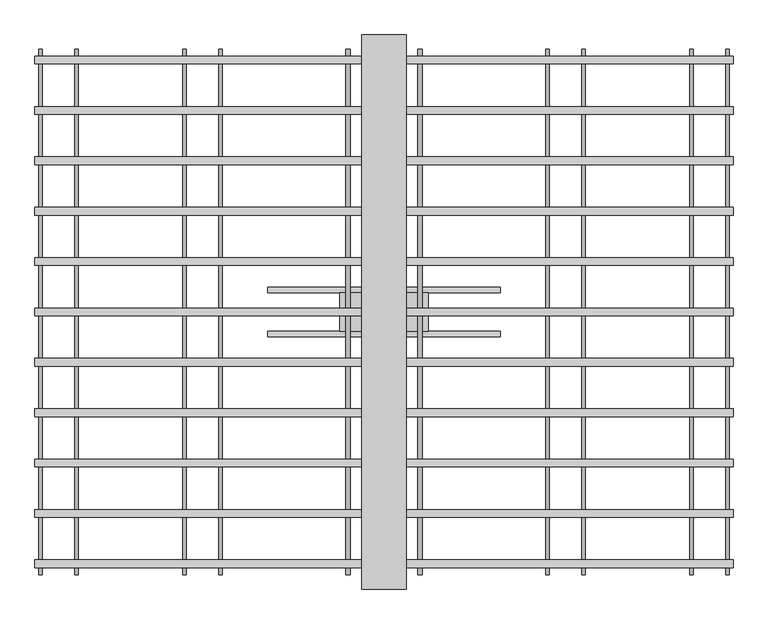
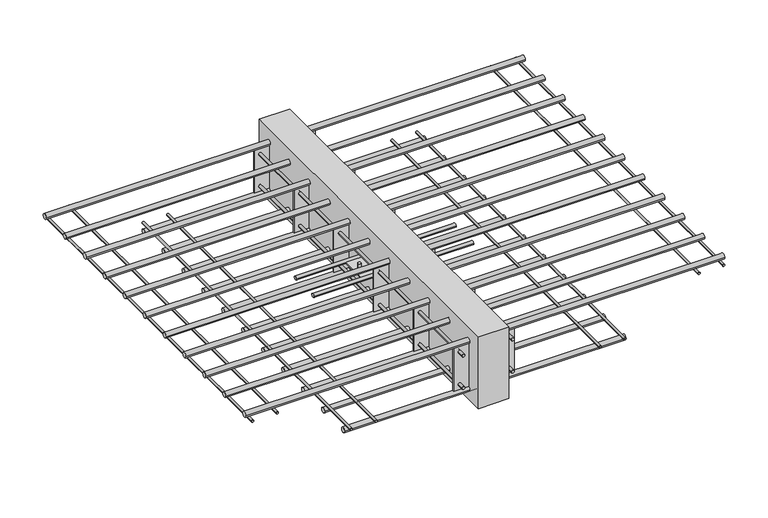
"""IFC4 building model written with IfcOpenShell, lengths in millimetres: proxy geometry, ACINOXplus_Typenreihe_K : KH+ S1."""

from ifc_helpers import new_model, si_unit, point, frame, frame_2d, origin, place, context, project, spatial, polyline, circle_curve, trimmed, segment, composite_curve, outline, extrude, source, transform, mapped, element, save
from ifc_brep_helpers import plane_surface, cylinder_surface, advanced_brep


def generic_models_bff30d25(model_context):
    return source(origin(), model_context, "Body", "SolidModel", [
        extrude(outline(polyline([(40.0, 500.0), (40.0, -500.0), (-40.0, -500.0), (-40.0, 500.0), (40.0, 500.0)])), frame((0.0, 0.0, -200.0), z_axis=(0.0, 0.0, 1.0), x_axis=(1.0, 0.0, 0.0)), (0.0, 0.0, 1.0), 200.0),
        extrude(outline(composite_curve([segment(trimmed(circle_curve(frame_2d((-40.0, -104.0)), 5.0), [point((-45.0, -104.0))], [point((-35.0, -104.0))], False, "CARTESIAN"), True, "CONTINUOUS"), segment(trimmed(circle_curve(frame_2d((-40.0, -104.0)), 5.0), [point((-35.0, -104.0))], [point((-45.0, -104.0))], False, "CARTESIAN"), True, "CONTINUOUS")], self_intersect=False)), frame((-210.0, 0.0, 0.0), z_axis=(1.0, 0.0, 0.0), x_axis=(0.0, 1.0, 0.0)), (0.0, 0.0, 1.0), 420.0),
        extrude(outline(composite_curve([segment(trimmed(circle_curve(frame_2d((40.0, -104.0)), 5.0), [point((35.0, -104.0))], [point((45.0, -104.0))], False, "CARTESIAN"), True, "CONTINUOUS"), segment(trimmed(circle_curve(frame_2d((40.0, -104.0)), 5.0), [point((45.0, -104.0))], [point((35.0, -104.0))], False, "CARTESIAN"), True, "CONTINUOUS")], self_intersect=False)), frame((-210.0, 0.0, 0.0), z_axis=(1.0, 0.0, 0.0), x_axis=(0.0, 1.0, 0.0)), (0.0, 0.0, 1.0), 420.0),
        advanced_brep(
        [(-69.0, 0.0, -89.0), (-61.0, 0.0, -89.0), (61.0, 0.0, -89.0), (69.0, 0.0, -89.0), (-69.0, 0.0, -119.0), (-61.0, 0.0, -119.0), (61.0, 0.0, -119.0), (69.0, 0.0, -119.0), (-69.0, 0.0, -102.5), (-61.0, 0.0, -102.5), (-61.0, 0.0, -105.5), (-69.0, 0.0, -105.5), (61.0, 0.0, -102.5), (69.0, 0.0, -102.5), (69.0, 0.0, -105.5), (61.0, 0.0, -105.5), (80.0, 35.0, -102.5), (-80.0, 35.0, -102.5), (-80.0, -35.0, -102.5), (80.0, -35.0, -102.5), (80.0, 35.0, -105.5), (80.0, -35.0, -105.5), (-80.0, -35.0, -105.5), (-80.0, 35.0, -105.5)],
        [
            (0, 1, circle_curve(frame((-65.0, 0.0, -89.0), z_axis=(0.0, 0.0, 1.0), x_axis=(1.0, 0.0, 0.0)), 4.0)),
            (1, 0, circle_curve(frame((-65.0, 0.0, -89.0), z_axis=(0.0, 0.0, 1.0), x_axis=(1.0, 0.0, 0.0)), 4.0)),
            (2, 3, circle_curve(frame((65.0, 0.0, -89.0), z_axis=(0.0, 0.0, 1.0), x_axis=(1.0, 0.0, 0.0)), 4.0)),
            (3, 2, circle_curve(frame((65.0, 0.0, -89.0), z_axis=(0.0, 0.0, 1.0), x_axis=(1.0, 0.0, 0.0)), 4.0)),
            (4, 5, circle_curve(frame((-65.0, 0.0, -119.0), z_axis=(0.0, 0.0, -1.0), x_axis=(1.0, 0.0, 0.0)), 4.0)),
            (5, 4, circle_curve(frame((-65.0, 0.0, -119.0), z_axis=(0.0, 0.0, -1.0), x_axis=(1.0, 0.0, 0.0)), 4.0)),
            (6, 7, circle_curve(frame((65.0, 0.0, -119.0), z_axis=(0.0, 0.0, -1.0), x_axis=(1.0, 0.0, 0.0)), 4.0)),
            (7, 6, circle_curve(frame((65.0, 0.0, -119.0), z_axis=(0.0, 0.0, -1.0), x_axis=(1.0, 0.0, 0.0)), 4.0)),
            (0, 8),
            (8, 9, circle_curve(frame((-65.0, 0.0, -102.5), z_axis=(0.0, 0.0, 1.0), x_axis=(1.0, 0.0, 0.0)), 4.0)),
            (9, 1),
            (5, 10),
            (10, 11, circle_curve(frame((-65.0, 0.0, -105.5), z_axis=(0.0, 0.0, -1.0), x_axis=(1.0, 0.0, 0.0)), 4.0)),
            (11, 4),
            (9, 8, circle_curve(frame((-65.0, 0.0, -102.5), z_axis=(0.0, 0.0, 1.0), x_axis=(1.0, 0.0, 0.0)), 4.0)),
            (11, 10, circle_curve(frame((-65.0, 0.0, -105.5), z_axis=(0.0, 0.0, -1.0), x_axis=(1.0, 0.0, 0.0)), 4.0)),
            (2, 12),
            (12, 13, circle_curve(frame((65.0, 0.0, -102.5), z_axis=(0.0, 0.0, 1.0), x_axis=(1.0, 0.0, 0.0)), 4.0)),
            (13, 3),
            (7, 14),
            (14, 15, circle_curve(frame((65.0, 0.0, -105.5), z_axis=(0.0, 0.0, -1.0), x_axis=(1.0, 0.0, 0.0)), 4.0)),
            (15, 6),
            (13, 12, circle_curve(frame((65.0, 0.0, -102.5), z_axis=(0.0, 0.0, 1.0), x_axis=(1.0, 0.0, 0.0)), 4.0)),
            (15, 14, circle_curve(frame((65.0, 0.0, -105.5), z_axis=(0.0, 0.0, -1.0), x_axis=(1.0, 0.0, 0.0)), 4.0)),
            (16, 17),
            (17, 18),
            (18, 19),
            (19, 16),
            (20, 21),
            (21, 22),
            (22, 23),
            (23, 20),
            (16, 20),
            (23, 17),
            (22, 18),
            (21, 19),
        ],
        [
            plane_surface(frame((-61.0, 0.0, -89.0), z_axis=(0.0, 0.0, 1.0), x_axis=(0.0, 1.0, 0.0))),
            plane_surface(frame((-61.0, 0.0, -119.0), z_axis=(0.0, 0.0, -1.0), x_axis=(0.0, -1.0, 0.0))),
            cylinder_surface(frame((-65.0, 0.0, -119.0), z_axis=(0.0, 0.0, 1.0), x_axis=(1.0, 0.0, 0.0)), 4.0),
            cylinder_surface(frame((65.0, 0.0, -104.0), z_axis=(0.0, 0.0, 1.0), x_axis=(1.0, 0.0, 0.0)), 4.0),
            plane_surface(frame((-80.0, 35.0, -102.5), z_axis=(0.0, 0.0, 1.0), x_axis=(-1.0, 0.0, 0.0))),
            plane_surface(frame((-80.0, 35.0, -105.5), z_axis=(0.0, 0.0, -1.0), x_axis=(1.0, 0.0, 0.0))),
            plane_surface(frame((80.0, 35.0, -102.5), z_axis=(0.0, 1.0, 0.0), x_axis=(0.0, 0.0, -1.0))),
            plane_surface(frame((-80.0, 35.0, -102.5), z_axis=(-1.0, 0.0, 0.0), x_axis=(0.0, 0.0, -1.0))),
            plane_surface(frame((-80.0, -35.0, -102.5), z_axis=(0.0, -1.0, 0.0), x_axis=(0.0, 0.0, -1.0))),
            plane_surface(frame((80.0, -35.0, -102.5), z_axis=(1.0, 0.0, 0.0), x_axis=(0.0, 0.0, -1.0))),
        ],
        [
            (0, [[1, 2]]),
            (0, [[3, 4]]),
            (1, [[5, 6]]),
            (1, [[7, 8]]),
            (2, [[-1, 9, 10, 11]]),
            (2, [[-6, 12, 13, 14]]),
            (2, [[-2, -11, 15, -9]]),
            (2, [[-5, -14, 16, -12]]),
            (3, [[-3, 17, 18, 19]]),
            (3, [[-8, 20, 21, 22]]),
            (3, [[-4, -19, 23, -17]]),
            (3, [[-7, -22, 24, -20]]),
            (4, [[25, 26, 27, 28], [-10, -15], [-18, -23]]),
            (5, [[29, 30, 31, 32], [-13, -16], [-21, -24]]),
            (6, [[-25, 33, -32, 34]]),
            (7, [[-26, -34, -31, 35]]),
            (8, [[-27, -35, -30, 36]]),
            (9, [[-28, -36, -29, -33]]),
        ],
    ),
        extrude(outline(polyline([(80.0, -271.2272727), (80.0, -274.2272727), (-80.0, -274.2272727), (-80.0, -271.2272727), (80.0, -271.2272727)])), frame((0.0, 0.0, -164.0), z_axis=(0.0, 0.0, 1.0), x_axis=(1.0, 0.0, 0.0)), (0.0, 0.0, 1.0), 120.0),
        extrude(outline(polyline([(80.0, -89.4090909), (80.0, -92.4090909), (-80.0, -92.4090909), (-80.0, -89.4090909), (80.0, -89.4090909)])), frame((0.0, 0.0, -164.0), z_axis=(0.0, 0.0, 1.0), x_axis=(1.0, 0.0, 0.0)), (0.0, 0.0, 1.0), 120.0),
        extrude(outline(polyline([(80.0, 92.4090909), (80.0, 89.4090909), (-80.0, 89.4090909), (-80.0, 92.4090909), (80.0, 92.4090909)])), frame((0.0, 0.0, -164.0), z_axis=(0.0, 0.0, 1.0), x_axis=(1.0, 0.0, 0.0)), (0.0, 0.0, 1.0), 120.0),
        extrude(outline(polyline([(80.0, 274.2272727), (80.0, 271.2272727), (-80.0, 271.2272727), (-80.0, 274.2272727), (80.0, 274.2272727)])), frame((0.0, 0.0, -164.0), z_axis=(0.0, 0.0, 1.0), x_axis=(1.0, 0.0, 0.0)), (0.0, 0.0, 1.0), 120.0),
        extrude(outline(polyline([(80.0, -453.0454545), (80.0, -456.0454545), (-80.0, -456.0454545), (-80.0, -453.0454545), (80.0, -453.0454545)])), frame((0.0, 0.0, -164.0), z_axis=(0.0, 0.0, 1.0), x_axis=(1.0, 0.0, 0.0)), (0.0, 0.0, 1.0), 120.0),
        extrude(outline(polyline([(80.0, 456.0454545), (80.0, 453.0454545), (-80.0, 453.0454545), (-80.0, 456.0454545), (80.0, 456.0454545)])), frame((0.0, 0.0, -164.0), z_axis=(0.0, 0.0, 1.0), x_axis=(1.0, 0.0, 0.0)), (0.0, 0.0, 1.0), 120.0),
        extrude(outline(composite_curve([segment(trimmed(circle_curve(frame_2d((-149.0, -65.0)), 4.0), [point((-149.0, -61.0))], [point((-149.0, -69.0))], False, "CARTESIAN"), True, "CONTINUOUS"), segment(trimmed(circle_curve(frame_2d((-149.0, -65.0)), 4.0), [point((-149.0, -69.0))], [point((-149.0, -61.0))], False, "CARTESIAN"), True, "CONTINUOUS")], self_intersect=False)), frame((0.0, -474.5454545, 0.0), z_axis=(0.0, 1.0, 0.0), x_axis=(0.0, 0.0, 1.0)), (0.0, 0.0, 1.0), 18.5),
        extrude(outline(composite_curve([segment(trimmed(circle_curve(frame_2d((-149.0, -65.0)), 4.0), [point((-149.0, -69.0))], [point((-149.0, -61.0))], False, "CARTESIAN"), True, "CONTINUOUS"), segment(trimmed(circle_curve(frame_2d((-149.0, -65.0)), 4.0), [point((-149.0, -61.0))], [point((-149.0, -69.0))], False, "CARTESIAN"), True, "CONTINUOUS")], self_intersect=False)), frame((0.0, -453.0454545, 0.0), z_axis=(0.0, 1.0, 0.0), x_axis=(0.0, 0.0, 1.0)), (0.0, 0.0, 1.0), 724.2727273),
        extrude(outline(composite_curve([segment(trimmed(circle_curve(frame_2d((-149.0, -65.0)), 4.0), [point((-149.0, -69.0))], [point((-149.0, -61.0))], False, "CARTESIAN"), True, "CONTINUOUS"), segment(trimmed(circle_curve(frame_2d((-149.0, -65.0)), 4.0), [point((-149.0, -61.0))], [point((-149.0, -69.0))], False, "CARTESIAN"), True, "CONTINUOUS")], self_intersect=False)), frame((0.0, 456.0454545, 0.0), z_axis=(0.0, 1.0, 0.0), x_axis=(0.0, 0.0, 1.0)), (0.0, 0.0, 1.0), 18.5),
        extrude(outline(composite_curve([segment(trimmed(circle_curve(frame_2d((-149.0, -65.0)), 4.0), [point((-149.0, -69.0))], [point((-149.0, -61.0))], False, "CARTESIAN"), True, "CONTINUOUS"), segment(trimmed(circle_curve(frame_2d((-149.0, -65.0)), 4.0), [point((-149.0, -61.0))], [point((-149.0, -69.0))], False, "CARTESIAN"), True, "CONTINUOUS")], self_intersect=False)), frame((0.0, 274.2272727, 0.0), z_axis=(0.0, 1.0, 0.0), x_axis=(0.0, 0.0, 1.0)), (0.0, 0.0, 1.0), 178.8181818),
        extrude(outline(composite_curve([segment(trimmed(circle_curve(frame_2d((-149.0, 65.0)), 4.0), [point((-149.0, 69.0))], [point((-149.0, 61.0))], False, "CARTESIAN"), True, "CONTINUOUS"), segment(trimmed(circle_curve(frame_2d((-149.0, 65.0)), 4.0), [point((-149.0, 61.0))], [point((-149.0, 69.0))], False, "CARTESIAN"), True, "CONTINUOUS")], self_intersect=False)), frame((0.0, -474.5454545, 0.0), z_axis=(0.0, 1.0, 0.0), x_axis=(0.0, 0.0, 1.0)), (0.0, 0.0, 1.0), 18.5),
        extrude(outline(composite_curve([segment(trimmed(circle_curve(frame_2d((-149.0, 65.0)), 4.0), [point((-149.0, 61.0))], [point((-149.0, 69.0))], False, "CARTESIAN"), True, "CONTINUOUS"), segment(trimmed(circle_curve(frame_2d((-149.0, 65.0)), 4.0), [point((-149.0, 69.0))], [point((-149.0, 61.0))], False, "CARTESIAN"), True, "CONTINUOUS")], self_intersect=False)), frame((0.0, -453.0454545, 0.0), z_axis=(0.0, 1.0, 0.0), x_axis=(0.0, 0.0, 1.0)), (0.0, 0.0, 1.0), 724.2727273),
        extrude(outline(composite_curve([segment(trimmed(circle_curve(frame_2d((-149.0, 65.0)), 4.0), [point((-149.0, 61.0))], [point((-149.0, 69.0))], False, "CARTESIAN"), True, "CONTINUOUS"), segment(trimmed(circle_curve(frame_2d((-149.0, 65.0)), 4.0), [point((-149.0, 69.0))], [point((-149.0, 61.0))], False, "CARTESIAN"), True, "CONTINUOUS")], self_intersect=False)), frame((0.0, 456.0454545, 0.0), z_axis=(0.0, 1.0, 0.0), x_axis=(0.0, 0.0, 1.0)), (0.0, 0.0, 1.0), 18.5),
        extrude(outline(composite_curve([segment(trimmed(circle_curve(frame_2d((-149.0, 65.0)), 4.0), [point((-149.0, 61.0))], [point((-149.0, 69.0))], False, "CARTESIAN"), True, "CONTINUOUS"), segment(trimmed(circle_curve(frame_2d((-149.0, 65.0)), 4.0), [point((-149.0, 69.0))], [point((-149.0, 61.0))], False, "CARTESIAN"), True, "CONTINUOUS")], self_intersect=False)), frame((0.0, 274.2272727, 0.0), z_axis=(0.0, 1.0, 0.0), x_axis=(0.0, 0.0, 1.0)), (0.0, 0.0, 1.0), 178.8181818),
        extrude(outline(composite_curve([segment(trimmed(circle_curve(frame_2d((-59.0, -65.0)), 4.0), [point((-59.0, -61.0))], [point((-59.0, -69.0))], False, "CARTESIAN"), True, "CONTINUOUS"), segment(trimmed(circle_curve(frame_2d((-59.0, -65.0)), 4.0), [point((-59.0, -69.0))], [point((-59.0, -61.0))], False, "CARTESIAN"), True, "CONTINUOUS")], self_intersect=False)), frame((0.0, -474.5454545, 0.0), z_axis=(0.0, 1.0, 0.0), x_axis=(0.0, 0.0, 1.0)), (0.0, 0.0, 1.0), 18.5),
        extrude(outline(composite_curve([segment(trimmed(circle_curve(frame_2d((-59.0, -65.0)), 4.0), [point((-59.0, -69.0))], [point((-59.0, -61.0))], False, "CARTESIAN"), True, "CONTINUOUS"), segment(trimmed(circle_curve(frame_2d((-59.0, -65.0)), 4.0), [point((-59.0, -61.0))], [point((-59.0, -69.0))], False, "CARTESIAN"), True, "CONTINUOUS")], self_intersect=False)), frame((0.0, -453.0454545, 0.0), z_axis=(0.0, 1.0, 0.0), x_axis=(0.0, 0.0, 1.0)), (0.0, 0.0, 1.0), 724.2727273),
        extrude(outline(composite_curve([segment(trimmed(circle_curve(frame_2d((-59.0, -65.0)), 4.0), [point((-59.0, -69.0))], [point((-59.0, -61.0))], False, "CARTESIAN"), True, "CONTINUOUS"), segment(trimmed(circle_curve(frame_2d((-59.0, -65.0)), 4.0), [point((-59.0, -61.0))], [point((-59.0, -69.0))], False, "CARTESIAN"), True, "CONTINUOUS")], self_intersect=False)), frame((0.0, 456.0454545, 0.0), z_axis=(0.0, 1.0, 0.0), x_axis=(0.0, 0.0, 1.0)), (0.0, 0.0, 1.0), 18.5),
        extrude(outline(composite_curve([segment(trimmed(circle_curve(frame_2d((-59.0, -65.0)), 4.0), [point((-59.0, -69.0))], [point((-59.0, -61.0))], False, "CARTESIAN"), True, "CONTINUOUS"), segment(trimmed(circle_curve(frame_2d((-59.0, -65.0)), 4.0), [point((-59.0, -61.0))], [point((-59.0, -69.0))], False, "CARTESIAN"), True, "CONTINUOUS")], self_intersect=False)), frame((0.0, 274.2272727, 0.0), z_axis=(0.0, 1.0, 0.0), x_axis=(0.0, 0.0, 1.0)), (0.0, 0.0, 1.0), 178.8181818),
        extrude(outline(composite_curve([segment(trimmed(circle_curve(frame_2d((-59.0, 65.0)), 4.0), [point((-59.0, 69.0))], [point((-59.0, 61.0))], False, "CARTESIAN"), True, "CONTINUOUS"), segment(trimmed(circle_curve(frame_2d((-59.0, 65.0)), 4.0), [point((-59.0, 61.0))], [point((-59.0, 69.0))], False, "CARTESIAN"), True, "CONTINUOUS")], self_intersect=False)), frame((0.0, -474.5454545, 0.0), z_axis=(0.0, 1.0, 0.0), x_axis=(0.0, 0.0, 1.0)), (0.0, 0.0, 1.0), 18.5),
        extrude(outline(composite_curve([segment(trimmed(circle_curve(frame_2d((-59.0, 65.0)), 4.0), [point((-59.0, 61.0))], [point((-59.0, 69.0))], False, "CARTESIAN"), True, "CONTINUOUS"), segment(trimmed(circle_curve(frame_2d((-59.0, 65.0)), 4.0), [point((-59.0, 69.0))], [point((-59.0, 61.0))], False, "CARTESIAN"), True, "CONTINUOUS")], self_intersect=False)), frame((0.0, -453.0454545, 0.0), z_axis=(0.0, 1.0, 0.0), x_axis=(0.0, 0.0, 1.0)), (0.0, 0.0, 1.0), 724.2727273),
        extrude(outline(composite_curve([segment(trimmed(circle_curve(frame_2d((-59.0, 65.0)), 4.0), [point((-59.0, 61.0))], [point((-59.0, 69.0))], False, "CARTESIAN"), True, "CONTINUOUS"), segment(trimmed(circle_curve(frame_2d((-59.0, 65.0)), 4.0), [point((-59.0, 69.0))], [point((-59.0, 61.0))], False, "CARTESIAN"), True, "CONTINUOUS")], self_intersect=False)), frame((0.0, 456.0454545, 0.0), z_axis=(0.0, 1.0, 0.0), x_axis=(0.0, 0.0, 1.0)), (0.0, 0.0, 1.0), 18.5),
        extrude(outline(composite_curve([segment(trimmed(circle_curve(frame_2d((-59.0, 65.0)), 4.0), [point((-59.0, 61.0))], [point((-59.0, 69.0))], False, "CARTESIAN"), True, "CONTINUOUS"), segment(trimmed(circle_curve(frame_2d((-59.0, 65.0)), 4.0), [point((-59.0, 69.0))], [point((-59.0, 61.0))], False, "CARTESIAN"), True, "CONTINUOUS")], self_intersect=False)), frame((0.0, 274.2272727, 0.0), z_axis=(0.0, 1.0, 0.0), x_axis=(0.0, 0.0, 1.0)), (0.0, 0.0, 1.0), 178.8181818),
        extrude(outline(composite_curve([segment(trimmed(circle_curve(frame_2d((272.7272727, -171.0)), 7.0), [point((265.7272727, -171.0))], [point((279.7272727, -171.0))], False, "CARTESIAN"), True, "CONTINUOUS"), segment(trimmed(circle_curve(frame_2d((272.7272727, -171.0)), 7.0), [point((279.7272727, -171.0))], [point((265.7272727, -171.0))], False, "CARTESIAN"), True, "CONTINUOUS")], self_intersect=False)), frame((-370.0, 0.0, 0.0), z_axis=(1.0, 0.0, 0.0), x_axis=(0.0, 1.0, 0.0)), (0.0, 0.0, 1.0), 740.0),
        extrude(outline(composite_curve([segment(trimmed(circle_curve(frame_2d((181.8181818, -171.0)), 7.0), [point((174.8181818, -171.0))], [point((188.8181818, -171.0))], False, "CARTESIAN"), True, "CONTINUOUS"), segment(trimmed(circle_curve(frame_2d((181.8181818, -171.0)), 7.0), [point((188.8181818, -171.0))], [point((174.8181818, -171.0))], False, "CARTESIAN"), True, "CONTINUOUS")], self_intersect=False)), frame((-370.0, 0.0, 0.0), z_axis=(1.0, 0.0, 0.0), x_axis=(0.0, 1.0, 0.0)), (0.0, 0.0, 1.0), 740.0),
        extrude(outline(composite_curve([segment(trimmed(circle_curve(frame_2d((90.9090909, -171.0)), 7.0), [point((83.9090909, -171.0))], [point((97.9090909, -171.0))], False, "CARTESIAN"), True, "CONTINUOUS"), segment(trimmed(circle_curve(frame_2d((90.9090909, -171.0)), 7.0), [point((97.9090909, -171.0))], [point((83.9090909, -171.0))], False, "CARTESIAN"), True, "CONTINUOUS")], self_intersect=False)), frame((-370.0, 0.0, 0.0), z_axis=(1.0, 0.0, 0.0), x_axis=(0.0, 1.0, 0.0)), (0.0, 0.0, 1.0), 740.0),
        extrude(outline(composite_curve([segment(trimmed(circle_curve(frame_2d((0.0, -171.0)), 7.0), [point((-7.0, -171.0))], [point((7.0, -171.0))], False, "CARTESIAN"), True, "CONTINUOUS"), segment(trimmed(circle_curve(frame_2d((0.0, -171.0)), 7.0), [point((7.0, -171.0))], [point((-7.0, -171.0))], False, "CARTESIAN"), True, "CONTINUOUS")], self_intersect=False)), frame((-370.0, 0.0, 0.0), z_axis=(1.0, 0.0, 0.0), x_axis=(0.0, 1.0, 0.0)), (0.0, 0.0, 1.0), 740.0),
        extrude(outline(composite_curve([segment(trimmed(circle_curve(frame_2d((-90.9090909, -171.0)), 7.0), [point((-97.9090909, -171.0))], [point((-83.9090909, -171.0))], False, "CARTESIAN"), True, "CONTINUOUS"), segment(trimmed(circle_curve(frame_2d((-90.9090909, -171.0)), 7.0), [point((-83.9090909, -171.0))], [point((-97.9090909, -171.0))], False, "CARTESIAN"), True, "CONTINUOUS")], self_intersect=False)), frame((-370.0, 0.0, 0.0), z_axis=(1.0, 0.0, 0.0), x_axis=(0.0, 1.0, 0.0)), (0.0, 0.0, 1.0), 740.0),
        extrude(outline(composite_curve([segment(trimmed(circle_curve(frame_2d((-181.8181818, -171.0)), 7.0), [point((-188.8181818, -171.0))], [point((-174.8181818, -171.0))], False, "CARTESIAN"), True, "CONTINUOUS"), segment(trimmed(circle_curve(frame_2d((-181.8181818, -171.0)), 7.0), [point((-174.8181818, -171.0))], [point((-188.8181818, -171.0))], False, "CARTESIAN"), True, "CONTINUOUS")], self_intersect=False)), frame((-370.0, 0.0, 0.0), z_axis=(1.0, 0.0, 0.0), x_axis=(0.0, 1.0, 0.0)), (0.0, 0.0, 1.0), 740.0),
        extrude(outline(composite_curve([segment(trimmed(circle_curve(frame_2d((-272.7272727, -171.0)), 7.0), [point((-279.7272727, -171.0))], [point((-265.7272727, -171.0))], False, "CARTESIAN"), True, "CONTINUOUS"), segment(trimmed(circle_curve(frame_2d((-272.7272727, -171.0)), 7.0), [point((-265.7272727, -171.0))], [point((-279.7272727, -171.0))], False, "CARTESIAN"), True, "CONTINUOUS")], self_intersect=False)), frame((-370.0, 0.0, 0.0), z_axis=(1.0, 0.0, 0.0), x_axis=(0.0, 1.0, 0.0)), (0.0, 0.0, 1.0), 740.0),
        extrude(outline(composite_curve([segment(trimmed(circle_curve(frame_2d((363.6363636, -171.0)), 7.0), [point((356.6363636, -171.0))], [point((370.6363636, -171.0))], False, "CARTESIAN"), True, "CONTINUOUS"), segment(trimmed(circle_curve(frame_2d((363.6363636, -171.0)), 7.0), [point((370.6363636, -171.0))], [point((356.6363636, -171.0))], False, "CARTESIAN"), True, "CONTINUOUS")], self_intersect=False)), frame((-370.0, 0.0, 0.0), z_axis=(1.0, 0.0, 0.0), x_axis=(0.0, 1.0, 0.0)), (0.0, 0.0, 1.0), 740.0),
        extrude(outline(composite_curve([segment(trimmed(circle_curve(frame_2d((454.5454545, -171.0)), 7.0), [point((447.5454545, -171.0))], [point((461.5454545, -171.0))], False, "CARTESIAN"), True, "CONTINUOUS"), segment(trimmed(circle_curve(frame_2d((454.5454545, -171.0)), 7.0), [point((461.5454545, -171.0))], [point((447.5454545, -171.0))], False, "CARTESIAN"), True, "CONTINUOUS")], self_intersect=False)), frame((-370.0, 0.0, 0.0), z_axis=(1.0, 0.0, 0.0), x_axis=(0.0, 1.0, 0.0)), (0.0, 0.0, 1.0), 740.0),
        extrude(outline(composite_curve([segment(trimmed(circle_curve(frame_2d((-363.6363636, -171.0)), 7.0), [point((-370.6363636, -171.0))], [point((-356.6363636, -171.0))], False, "CARTESIAN"), True, "CONTINUOUS"), segment(trimmed(circle_curve(frame_2d((-363.6363636, -171.0)), 7.0), [point((-356.6363636, -171.0))], [point((-370.6363636, -171.0))], False, "CARTESIAN"), True, "CONTINUOUS")], self_intersect=False)), frame((-370.0, 0.0, 0.0), z_axis=(1.0, 0.0, 0.0), x_axis=(0.0, 1.0, 0.0)), (0.0, 0.0, 1.0), 740.0),
        extrude(outline(composite_curve([segment(trimmed(circle_curve(frame_2d((-454.5454545, -171.0)), 7.0), [point((-461.5454545, -171.0))], [point((-447.5454545, -171.0))], False, "CARTESIAN"), True, "CONTINUOUS"), segment(trimmed(circle_curve(frame_2d((-454.5454545, -171.0)), 7.0), [point((-447.5454545, -171.0))], [point((-461.5454545, -171.0))], False, "CARTESIAN"), True, "CONTINUOUS")], self_intersect=False)), frame((-370.0, 0.0, 0.0), z_axis=(1.0, 0.0, 0.0), x_axis=(0.0, 1.0, 0.0)), (0.0, 0.0, 1.0), 740.0),
        extrude(outline(composite_curve([segment(trimmed(circle_curve(frame_2d((272.7272727, -37.0)), 7.0), [point((265.7272727, -37.0))], [point((279.7272727, -37.0))], False, "CARTESIAN"), True, "CONTINUOUS"), segment(trimmed(circle_curve(frame_2d((272.7272727, -37.0)), 7.0), [point((279.7272727, -37.0))], [point((265.7272727, -37.0))], False, "CARTESIAN"), True, "CONTINUOUS")], self_intersect=False)), frame((-630.0, 0.0, 0.0), z_axis=(1.0, 0.0, 0.0), x_axis=(0.0, 1.0, 0.0)), (0.0, 0.0, 1.0), 1260.0),
        extrude(outline(composite_curve([segment(trimmed(circle_curve(frame_2d((181.8181818, -37.0)), 7.0), [point((174.8181818, -37.0))], [point((188.8181818, -37.0))], False, "CARTESIAN"), True, "CONTINUOUS"), segment(trimmed(circle_curve(frame_2d((181.8181818, -37.0)), 7.0), [point((188.8181818, -37.0))], [point((174.8181818, -37.0))], False, "CARTESIAN"), True, "CONTINUOUS")], self_intersect=False)), frame((-630.0, 0.0, 0.0), z_axis=(1.0, 0.0, 0.0), x_axis=(0.0, 1.0, 0.0)), (0.0, 0.0, 1.0), 1260.0),
        extrude(outline(composite_curve([segment(trimmed(circle_curve(frame_2d((90.9090909, -37.0)), 7.0), [point((83.9090909, -37.0))], [point((97.9090909, -37.0))], False, "CARTESIAN"), True, "CONTINUOUS"), segment(trimmed(circle_curve(frame_2d((90.9090909, -37.0)), 7.0), [point((97.9090909, -37.0))], [point((83.9090909, -37.0))], False, "CARTESIAN"), True, "CONTINUOUS")], self_intersect=False)), frame((-630.0, 0.0, 0.0), z_axis=(1.0, 0.0, 0.0), x_axis=(0.0, 1.0, 0.0)), (0.0, 0.0, 1.0), 1260.0),
        extrude(outline(composite_curve([segment(trimmed(circle_curve(frame_2d((0.0, -37.0)), 7.0), [point((-7.0, -37.0))], [point((7.0, -37.0))], False, "CARTESIAN"), True, "CONTINUOUS"), segment(trimmed(circle_curve(frame_2d((0.0, -37.0)), 7.0), [point((7.0, -37.0))], [point((-7.0, -37.0))], False, "CARTESIAN"), True, "CONTINUOUS")], self_intersect=False)), frame((-630.0, 0.0, 0.0), z_axis=(1.0, 0.0, 0.0), x_axis=(0.0, 1.0, 0.0)), (0.0, 0.0, 1.0), 1260.0),
        extrude(outline(composite_curve([segment(trimmed(circle_curve(frame_2d((-90.9090909, -37.0)), 7.0), [point((-97.9090909, -37.0))], [point((-83.9090909, -37.0))], False, "CARTESIAN"), True, "CONTINUOUS"), segment(trimmed(circle_curve(frame_2d((-90.9090909, -37.0)), 7.0), [point((-83.9090909, -37.0))], [point((-97.9090909, -37.0))], False, "CARTESIAN"), True, "CONTINUOUS")], self_intersect=False)), frame((-630.0, 0.0, 0.0), z_axis=(1.0, 0.0, 0.0), x_axis=(0.0, 1.0, 0.0)), (0.0, 0.0, 1.0), 1260.0),
        extrude(outline(composite_curve([segment(trimmed(circle_curve(frame_2d((-181.8181818, -37.0)), 7.0), [point((-188.8181818, -37.0))], [point((-174.8181818, -37.0))], False, "CARTESIAN"), True, "CONTINUOUS"), segment(trimmed(circle_curve(frame_2d((-181.8181818, -37.0)), 7.0), [point((-174.8181818, -37.0))], [point((-188.8181818, -37.0))], False, "CARTESIAN"), True, "CONTINUOUS")], self_intersect=False)), frame((-630.0, 0.0, 0.0), z_axis=(1.0, 0.0, 0.0), x_axis=(0.0, 1.0, 0.0)), (0.0, 0.0, 1.0), 1260.0),
        extrude(outline(composite_curve([segment(trimmed(circle_curve(frame_2d((-272.7272727, -37.0)), 7.0), [point((-279.7272727, -37.0))], [point((-265.7272727, -37.0))], False, "CARTESIAN"), True, "CONTINUOUS"), segment(trimmed(circle_curve(frame_2d((-272.7272727, -37.0)), 7.0), [point((-265.7272727, -37.0))], [point((-279.7272727, -37.0))], False, "CARTESIAN"), True, "CONTINUOUS")], self_intersect=False)), frame((-630.0, 0.0, 0.0), z_axis=(1.0, 0.0, 0.0), x_axis=(0.0, 1.0, 0.0)), (0.0, 0.0, 1.0), 1260.0),
        extrude(outline(composite_curve([segment(trimmed(circle_curve(frame_2d((363.6363636, -37.0)), 7.0), [point((356.6363636, -37.0))], [point((370.6363636, -37.0))], False, "CARTESIAN"), True, "CONTINUOUS"), segment(trimmed(circle_curve(frame_2d((363.6363636, -37.0)), 7.0), [point((370.6363636, -37.0))], [point((356.6363636, -37.0))], False, "CARTESIAN"), True, "CONTINUOUS")], self_intersect=False)), frame((-630.0, 0.0, 0.0), z_axis=(1.0, 0.0, 0.0), x_axis=(0.0, 1.0, 0.0)), (0.0, 0.0, 1.0), 1260.0),
        extrude(outline(composite_curve([segment(trimmed(circle_curve(frame_2d((454.5454545, -37.0)), 7.0), [point((447.5454545, -37.0))], [point((461.5454545, -37.0))], False, "CARTESIAN"), True, "CONTINUOUS"), segment(trimmed(circle_curve(frame_2d((454.5454545, -37.0)), 7.0), [point((461.5454545, -37.0))], [point((447.5454545, -37.0))], False, "CARTESIAN"), True, "CONTINUOUS")], self_intersect=False)), frame((-630.0, 0.0, 0.0), z_axis=(1.0, 0.0, 0.0), x_axis=(0.0, 1.0, 0.0)), (0.0, 0.0, 1.0), 1260.0),
        extrude(outline(composite_curve([segment(trimmed(circle_curve(frame_2d((-363.6363636, -37.0)), 7.0), [point((-370.6363636, -37.0))], [point((-356.6363636, -37.0))], False, "CARTESIAN"), True, "CONTINUOUS"), segment(trimmed(circle_curve(frame_2d((-363.6363636, -37.0)), 7.0), [point((-356.6363636, -37.0))], [point((-370.6363636, -37.0))], False, "CARTESIAN"), True, "CONTINUOUS")], self_intersect=False)), frame((-630.0, 0.0, 0.0), z_axis=(1.0, 0.0, 0.0), x_axis=(0.0, 1.0, 0.0)), (0.0, 0.0, 1.0), 1260.0),
        extrude(outline(composite_curve([segment(trimmed(circle_curve(frame_2d((-454.5454545, -37.0)), 7.0), [point((-461.5454545, -37.0))], [point((-447.5454545, -37.0))], False, "CARTESIAN"), True, "CONTINUOUS"), segment(trimmed(circle_curve(frame_2d((-454.5454545, -37.0)), 7.0), [point((-447.5454545, -37.0))], [point((-461.5454545, -37.0))], False, "CARTESIAN"), True, "CONTINUOUS")], self_intersect=False)), frame((-630.0, 0.0, 0.0), z_axis=(1.0, 0.0, 0.0), x_axis=(0.0, 1.0, 0.0)), (0.0, 0.0, 1.0), 1260.0),
        extrude(outline(composite_curve([segment(trimmed(circle_curve(frame_2d((-161.0, -360.0)), 3.0), [point((-161.0, -357.0))], [point((-161.0, -363.0))], False, "CARTESIAN"), True, "CONTINUOUS"), segment(trimmed(circle_curve(frame_2d((-161.0, -360.0)), 3.0), [point((-161.0, -363.0))], [point((-161.0, -357.0))], False, "CARTESIAN"), True, "CONTINUOUS")], self_intersect=False)), frame((0.0, -474.5454545, 0.0), z_axis=(0.0, 1.0, 0.0), x_axis=(0.0, 0.0, 1.0)), (0.0, 0.0, 1.0), 949.0909091),
        extrude(outline(composite_curve([segment(trimmed(circle_curve(frame_2d((-161.0, -295.0)), 3.0), [point((-161.0, -292.0))], [point((-161.0, -298.0))], False, "CARTESIAN"), True, "CONTINUOUS"), segment(trimmed(circle_curve(frame_2d((-161.0, -295.0)), 3.0), [point((-161.0, -298.0))], [point((-161.0, -292.0))], False, "CARTESIAN"), True, "CONTINUOUS")], self_intersect=False)), frame((0.0, -474.5454545, 0.0), z_axis=(0.0, 1.0, 0.0), x_axis=(0.0, 0.0, 1.0)), (0.0, 0.0, 1.0), 949.0909091),
        extrude(outline(composite_curve([segment(trimmed(circle_curve(frame_2d((-161.0, 295.0)), 3.0), [point((-161.0, 298.0))], [point((-161.0, 292.0))], False, "CARTESIAN"), True, "CONTINUOUS"), segment(trimmed(circle_curve(frame_2d((-161.0, 295.0)), 3.0), [point((-161.0, 292.0))], [point((-161.0, 298.0))], False, "CARTESIAN"), True, "CONTINUOUS")], self_intersect=False)), frame((0.0, -474.5454545, 0.0), z_axis=(0.0, 1.0, 0.0), x_axis=(0.0, 0.0, 1.0)), (0.0, 0.0, 1.0), 949.0909091),
        extrude(outline(composite_curve([segment(trimmed(circle_curve(frame_2d((-161.0, 360.0)), 3.0), [point((-161.0, 363.0))], [point((-161.0, 357.0))], False, "CARTESIAN"), True, "CONTINUOUS"), segment(trimmed(circle_curve(frame_2d((-161.0, 360.0)), 3.0), [point((-161.0, 357.0))], [point((-161.0, 363.0))], False, "CARTESIAN"), True, "CONTINUOUS")], self_intersect=False)), frame((0.0, -474.5454545, 0.0), z_axis=(0.0, 1.0, 0.0), x_axis=(0.0, 0.0, 1.0)), (0.0, 0.0, 1.0), 949.0909091),
        extrude(outline(composite_curve([segment(trimmed(circle_curve(frame_2d((-47.0, 555.0)), 3.0), [point((-47.0, 558.0))], [point((-47.0, 552.0))], False, "CARTESIAN"), True, "CONTINUOUS"), segment(trimmed(circle_curve(frame_2d((-47.0, 555.0)), 3.0), [point((-47.0, 552.0))], [point((-47.0, 558.0))], False, "CARTESIAN"), True, "CONTINUOUS")], self_intersect=False)), frame((0.0, -474.5454545, 0.0), z_axis=(0.0, 1.0, 0.0), x_axis=(0.0, 0.0, 1.0)), (0.0, 0.0, 1.0), 949.0909091),
        extrude(outline(composite_curve([segment(trimmed(circle_curve(frame_2d((-47.0, 620.0)), 3.0), [point((-47.0, 623.0))], [point((-47.0, 617.0))], False, "CARTESIAN"), True, "CONTINUOUS"), segment(trimmed(circle_curve(frame_2d((-47.0, 620.0)), 3.0), [point((-47.0, 617.0))], [point((-47.0, 623.0))], False, "CARTESIAN"), True, "CONTINUOUS")], self_intersect=False)), frame((0.0, -474.5454545, 0.0), z_axis=(0.0, 1.0, 0.0), x_axis=(0.0, 0.0, 1.0)), (0.0, 0.0, 1.0), 949.0909091),
        extrude(outline(composite_curve([segment(trimmed(circle_curve(frame_2d((-47.0, -620.0)), 3.0), [point((-47.0, -617.0))], [point((-47.0, -623.0))], False, "CARTESIAN"), True, "CONTINUOUS"), segment(trimmed(circle_curve(frame_2d((-47.0, -620.0)), 3.0), [point((-47.0, -623.0))], [point((-47.0, -617.0))], False, "CARTESIAN"), True, "CONTINUOUS")], self_intersect=False)), frame((0.0, -474.5454545, 0.0), z_axis=(0.0, 1.0, 0.0), x_axis=(0.0, 0.0, 1.0)), (0.0, 0.0, 1.0), 949.0909091),
        extrude(outline(composite_curve([segment(trimmed(circle_curve(frame_2d((-47.0, -555.0)), 3.0), [point((-47.0, -552.0))], [point((-47.0, -558.0))], False, "CARTESIAN"), True, "CONTINUOUS"), segment(trimmed(circle_curve(frame_2d((-47.0, -555.0)), 3.0), [point((-47.0, -558.0))], [point((-47.0, -552.0))], False, "CARTESIAN"), True, "CONTINUOUS")], self_intersect=False)), frame((0.0, -474.5454545, 0.0), z_axis=(0.0, 1.0, 0.0), x_axis=(0.0, 0.0, 1.0)), (0.0, 0.0, 1.0), 949.0909091),
    ])


if __name__ == "__main__":
    model = new_model("IFC4")
    model_context = context("Model", 3, world=origin())
    ifc_project = project(units=[si_unit("LENGTHUNIT", "METRE", prefix="MILLI")], contexts=[model_context])
    site = spatial("IfcSite", under=ifc_project)
    building = spatial("IfcBuilding", under=site)
    placement = place(None, origin())
    generic_models_shape = generic_models_bff30d25(model_context)
    element("IfcBuildingElementProxy", 1, Name="ACINOXplus_Typenreihe_K : KH+ S1", ObjectType="ACINOXplus_Typenreihe_K : KH+ S1", at=placement, inside=building, context=model_context, shape_type="MappedRepresentation", body=[
        mapped(generic_models_shape, transform((0.0, 0.0, 0.0), x_axis=(1.0, 0.0, 0.0), y_axis=(0.0, 1.0, 0.0), z_axis=(0.0, 0.0, 1.0))),
    ])
    save(model, "model.ifc")
